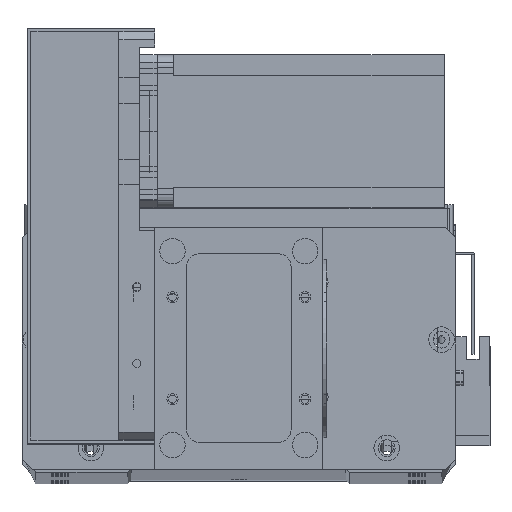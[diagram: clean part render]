
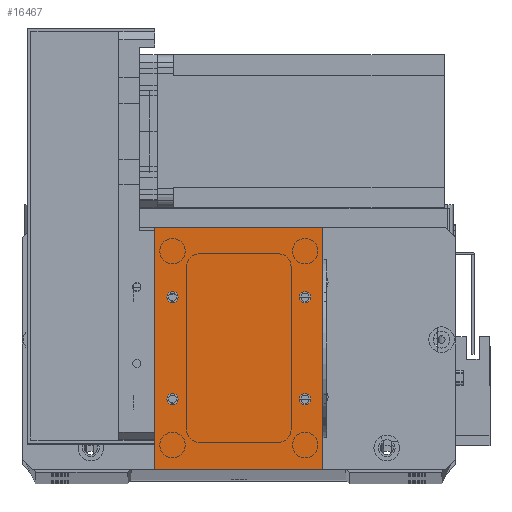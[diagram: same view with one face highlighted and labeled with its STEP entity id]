
A CAD part, top view. The second image highlights one B-rep face of the part: STEP entity #16467.
In plain terms, the highlighted planar face has unit normal (0, 0, 1).
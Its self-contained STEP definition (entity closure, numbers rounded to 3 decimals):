
#192 = FACE_BOUND ( 'NONE', #26268, .T. ) ;
#519 = ORIENTED_EDGE ( 'NONE', *, *, #17614, .F. ) ;
#739 = VERTEX_POINT ( 'NONE', #13988 ) ;
#945 = CIRCLE ( 'NONE', #1343, 2.25 ) ;
#1038 = AXIS2_PLACEMENT_3D ( 'NONE', #27324, #11534, #29963 ) ;
#1047 = CARTESIAN_POINT ( 'NONE',  ( 59., 27.5, 2. ) ) ;
#1343 = AXIS2_PLACEMENT_3D ( 'NONE', #33924, #18158, #2326 ) ;
#1392 = AXIS2_PLACEMENT_3D ( 'NONE', #2584, #21088, #5244 ) ;
#1944 = ORIENTED_EDGE ( 'NONE', *, *, #19878, .T. ) ;
#2326 = DIRECTION ( 'NONE',  ( 1., 0., 0. ) ) ;
#2584 = CARTESIAN_POINT ( 'NONE',  ( 59., 67.5, 2. ) ) ;
#2914 = VERTEX_POINT ( 'NONE', #23307 ) ;
#3119 = ORIENTED_EDGE ( 'NONE', *, *, #22950, .F. ) ;
#3141 = CIRCLE ( 'NONE', #1038, 2.25 ) ;
#3151 = EDGE_CURVE ( 'NONE', #27091, #33562, #12998, .T. ) ;
#3615 = ORIENTED_EDGE ( 'NONE', *, *, #13754, .F. ) ;
#3678 = DIRECTION ( 'NONE',  ( 1., 0., 0. ) ) ;
#3719 = CARTESIAN_POINT ( 'NONE',  ( 7., 27.5, 2. ) ) ;
#4125 = EDGE_CURVE ( 'NONE', #8149, #739, #4221, .T. ) ;
#4221 = LINE ( 'NONE', #24791, #23661 ) ;
#4368 = CARTESIAN_POINT ( 'NONE',  ( 0., 95., 2. ) ) ;
#4424 = AXIS2_PLACEMENT_3D ( 'NONE', #3719, #22232, #6382 ) ;
#5244 = DIRECTION ( 'NONE',  ( 1., 0., 0. ) ) ;
#5527 = FACE_OUTER_BOUND ( 'NONE', #30018, .T. ) ;
#6382 = DIRECTION ( 'NONE',  ( 1., 0., 0. ) ) ;
#6421 = EDGE_CURVE ( 'NONE', #27204, #11670, #7028, .T. ) ;
#6604 = EDGE_CURVE ( 'NONE', #15045, #8149, #29324, .T. ) ;
#7028 = CIRCLE ( 'NONE', #29764, 2.25 ) ;
#7769 = CARTESIAN_POINT ( 'NONE',  ( 66., 0., 2. ) ) ;
#7791 = CARTESIAN_POINT ( 'NONE',  ( 59., 67.5, 2. ) ) ;
#7964 = CARTESIAN_POINT ( 'NONE',  ( 56.75, 67.5, 2. ) ) ;
#8149 = VERTEX_POINT ( 'NONE', #16279 ) ;
#8184 = EDGE_LOOP ( 'NONE', ( #24665, #29576 ) ) ;
#8326 = ORIENTED_EDGE ( 'NONE', *, *, #15154, .F. ) ;
#9041 = EDGE_CURVE ( 'NONE', #11670, #27204, #10000, .T. ) ;
#9434 = DIRECTION ( 'NONE',  ( 0., 0., 1. ) ) ;
#9656 = EDGE_LOOP ( 'NONE', ( #32451, #519 ) ) ;
#9749 = CIRCLE ( 'NONE', #1392, 2.25 ) ;
#10000 = CIRCLE ( 'NONE', #13904, 2.25 ) ;
#10350 = LINE ( 'NONE', #7769, #16517 ) ;
#10450 = DIRECTION ( 'NONE',  ( 1., 0., 0. ) ) ;
#11534 = DIRECTION ( 'NONE',  ( 0., 0., 1. ) ) ;
#11670 = VERTEX_POINT ( 'NONE', #29194 ) ;
#11770 = AXIS2_PLACEMENT_3D ( 'NONE', #7791, #26251, #10450 ) ;
#12374 = DIRECTION ( 'NONE',  ( 0., 0., -1. ) ) ;
#12570 = FACE_BOUND ( 'NONE', #9656, .T. ) ;
#12998 = CIRCLE ( 'NONE', #11770, 2.25 ) ;
#13410 = FACE_BOUND ( 'NONE', #8184, .T. ) ;
#13631 = EDGE_LOOP ( 'NONE', ( #3119, #8326 ) ) ;
#13754 = EDGE_CURVE ( 'NONE', #33562, #27091, #9749, .T. ) ;
#13904 = AXIS2_PLACEMENT_3D ( 'NONE', #25222, #9434, #27883 ) ;
#13988 = CARTESIAN_POINT ( 'NONE',  ( 0., 0., 2. ) ) ;
#14191 = EDGE_CURVE ( 'NONE', #739, #29979, #24571, .T. ) ;
#14964 = CARTESIAN_POINT ( 'NONE',  ( 7., 67.5, 2. ) ) ;
#14999 = DIRECTION ( 'NONE',  ( -1., 0., 0. ) ) ;
#15019 = CIRCLE ( 'NONE', #4424, 2.25 ) ;
#15027 = DIRECTION ( 'NONE',  ( 1., 0., 0. ) ) ;
#15045 = VERTEX_POINT ( 'NONE', #23989 ) ;
#15154 = EDGE_CURVE ( 'NONE', #21029, #18464, #3141, .T. ) ;
#16279 = CARTESIAN_POINT ( 'NONE',  ( 0., 95., 2. ) ) ;
#16467 = ADVANCED_FACE ( 'NONE', ( #19574, #192, #13410, #12570, #5527 ), #22866, .F. ) ;
#16517 = VECTOR ( 'NONE', #20942, 1000. ) ;
#17614 = EDGE_CURVE ( 'NONE', #2914, #29605, #15019, .T. ) ;
#17617 = DIRECTION ( 'NONE',  ( 1., 0., 0. ) ) ;
#18106 = EDGE_CURVE ( 'NONE', #29605, #2914, #945, .T. ) ;
#18158 = DIRECTION ( 'NONE',  ( 0., 0., 1. ) ) ;
#18464 = VERTEX_POINT ( 'NONE', #32769 ) ;
#19502 = DIRECTION ( 'NONE',  ( 0., 0., 1. ) ) ;
#19574 = FACE_BOUND ( 'NONE', #13631, .T. ) ;
#19693 = CARTESIAN_POINT ( 'NONE',  ( 4.75, 67.5, 2. ) ) ;
#19878 = EDGE_CURVE ( 'NONE', #29979, #15045, #10350, .T. ) ;
#20101 = CARTESIAN_POINT ( 'NONE',  ( 56.75, 27.5, 2. ) ) ;
#20942 = DIRECTION ( 'NONE',  ( 0., 1., 0. ) ) ;
#21029 = VERTEX_POINT ( 'NONE', #19693 ) ;
#21088 = DIRECTION ( 'NONE',  ( 0., 0., 1. ) ) ;
#22174 = ORIENTED_EDGE ( 'NONE', *, *, #4125, .T. ) ;
#22198 = CARTESIAN_POINT ( 'NONE',  ( 61.25, 67.5, 2. ) ) ;
#22232 = DIRECTION ( 'NONE',  ( 0., 0., 1. ) ) ;
#22319 = VECTOR ( 'NONE', #14999, 1000. ) ;
#22591 = CIRCLE ( 'NONE', #25055, 2.25 ) ;
#22866 = PLANE ( 'NONE',  #33776 ) ;
#22950 = EDGE_CURVE ( 'NONE', #18464, #21029, #22591, .T. ) ;
#23307 = CARTESIAN_POINT ( 'NONE',  ( 4.75, 27.5, 2. ) ) ;
#23661 = VECTOR ( 'NONE', #32754, 1000. ) ;
#23989 = CARTESIAN_POINT ( 'NONE',  ( 66., 95., 2. ) ) ;
#24571 = LINE ( 'NONE', #30835, #30746 ) ;
#24665 = ORIENTED_EDGE ( 'NONE', *, *, #9041, .F. ) ;
#24791 = CARTESIAN_POINT ( 'NONE',  ( 0., 0., 2. ) ) ;
#25055 = AXIS2_PLACEMENT_3D ( 'NONE', #14964, #33407, #17617 ) ;
#25222 = CARTESIAN_POINT ( 'NONE',  ( 59., 27.5, 2. ) ) ;
#25653 = ORIENTED_EDGE ( 'NONE', *, *, #14191, .T. ) ;
#26251 = DIRECTION ( 'NONE',  ( 0., 0., 1. ) ) ;
#26268 = EDGE_LOOP ( 'NONE', ( #31326, #3615 ) ) ;
#27091 = VERTEX_POINT ( 'NONE', #22198 ) ;
#27204 = VERTEX_POINT ( 'NONE', #20101 ) ;
#27324 = CARTESIAN_POINT ( 'NONE',  ( 7., 67.5, 2. ) ) ;
#27483 = CARTESIAN_POINT ( 'NONE',  ( 66., 0., 2. ) ) ;
#27883 = DIRECTION ( 'NONE',  ( 1., 0., 0. ) ) ;
#28171 = CARTESIAN_POINT ( 'NONE',  ( 0., 0., 2. ) ) ;
#29194 = CARTESIAN_POINT ( 'NONE',  ( 61.25, 27.5, 2. ) ) ;
#29324 = LINE ( 'NONE', #4368, #22319 ) ;
#29576 = ORIENTED_EDGE ( 'NONE', *, *, #6421, .F. ) ;
#29605 = VERTEX_POINT ( 'NONE', #33834 ) ;
#29764 = AXIS2_PLACEMENT_3D ( 'NONE', #1047, #19502, #3678 ) ;
#29963 = DIRECTION ( 'NONE',  ( 1., 0., 0. ) ) ;
#29979 = VERTEX_POINT ( 'NONE', #27483 ) ;
#30018 = EDGE_LOOP ( 'NONE', ( #22174, #25653, #1944, #30902 ) ) ;
#30746 = VECTOR ( 'NONE', #15027, 1000. ) ;
#30821 = DIRECTION ( 'NONE',  ( -1., 0., 0. ) ) ;
#30835 = CARTESIAN_POINT ( 'NONE',  ( 0., 0., 2. ) ) ;
#30902 = ORIENTED_EDGE ( 'NONE', *, *, #6604, .T. ) ;
#31326 = ORIENTED_EDGE ( 'NONE', *, *, #3151, .F. ) ;
#32451 = ORIENTED_EDGE ( 'NONE', *, *, #18106, .F. ) ;
#32754 = DIRECTION ( 'NONE',  ( 0., -1., 0. ) ) ;
#32769 = CARTESIAN_POINT ( 'NONE',  ( 9.25, 67.5, 2. ) ) ;
#33407 = DIRECTION ( 'NONE',  ( 0., 0., 1. ) ) ;
#33562 = VERTEX_POINT ( 'NONE', #7964 ) ;
#33776 = AXIS2_PLACEMENT_3D ( 'NONE', #28171, #12374, #30821 ) ;
#33834 = CARTESIAN_POINT ( 'NONE',  ( 9.25, 27.5, 2. ) ) ;
#33924 = CARTESIAN_POINT ( 'NONE',  ( 7., 27.5, 2. ) ) ;
